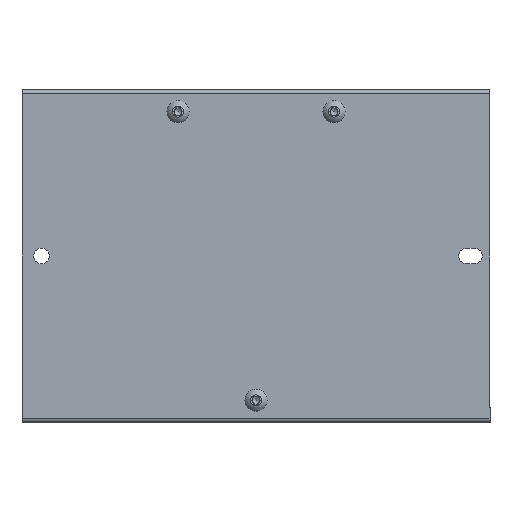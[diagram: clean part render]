
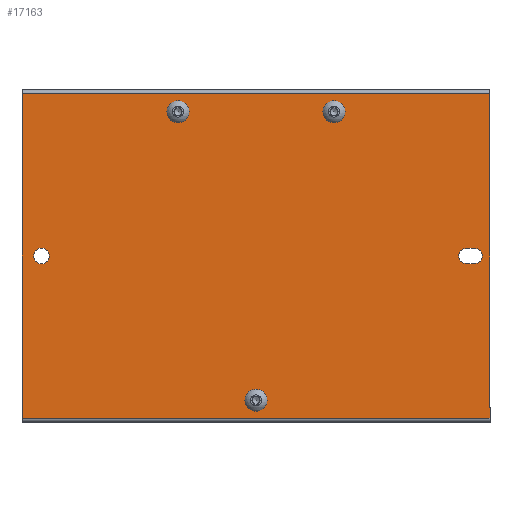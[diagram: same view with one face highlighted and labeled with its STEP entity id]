
A CAD part, front view. The second image highlights one B-rep face of the part: STEP entity #17163.
In plain terms, the highlighted planar face has unit normal (0, -1, 0).
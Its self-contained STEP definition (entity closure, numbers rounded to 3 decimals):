
#263 = VERTEX_POINT ( 'NONE', #1981 ) ;
#1354 = CARTESIAN_POINT ( 'NONE',  ( 360., -6.2, -109.1 ) ) ;
#1368 = CARTESIAN_POINT ( 'NONE',  ( 356., -6.2, -65.5 ) ) ;
#1453 = CARTESIAN_POINT ( 'NONE',  ( 245., -6.2, -67.5 ) ) ;
#1454 = DIRECTION ( 'NONE',  ( 0., 1., 0. ) ) ;
#1455 = DIRECTION ( 'NONE',  ( -1., 0., 0. ) ) ;
#1738 = VERTEX_POINT ( 'NONE', #22492 ) ;
#1948 = EDGE_LOOP ( 'NONE', ( #13069, #13067, #13066, #13063 ) ) ;
#1954 = EDGE_LOOP ( 'NONE', ( #13070 ) ) ;
#1955 = EDGE_LOOP ( 'NONE', ( #13061, #13057, #13055, #13053 ) ) ;
#1956 = EDGE_LOOP ( 'NONE', ( #13051 ) ) ;
#1981 = CARTESIAN_POINT ( 'NONE',  ( 354., -6.2, -69.5 ) ) ;
#2515 = VERTEX_POINT ( 'NONE', #1354 ) ;
#2529 = VERTEX_POINT ( 'NONE', #1368 ) ;
#4218 = AXIS2_PLACEMENT_3D ( 'NONE', #12952, #12953, #12954 ) ;
#4760 = LINE ( 'NONE', #4761, #7758 ) ;
#4761 = CARTESIAN_POINT ( 'NONE',  ( 360., -6.2, -109.1 ) ) ;
#4762 = DIRECTION ( 'NONE',  ( -1., 0., 0. ) ) ;
#4766 = LINE ( 'NONE', #4771, #7769 ) ;
#4770 = CARTESIAN_POINT ( 'NONE',  ( 354., -6.2, -69.5 ) ) ;
#4771 = CARTESIAN_POINT ( 'NONE',  ( 356., -6.2, -65.5 ) ) ;
#4772 = CARTESIAN_POINT ( 'NONE',  ( 320., -6.2, -30.5 ) ) ;
#4773 = DIRECTION ( 'NONE',  ( 0., 1., 0. ) ) ;
#4774 = DIRECTION ( 'NONE',  ( -1., 0., 0. ) ) ;
#4775 = LINE ( 'NONE', #4770, #7759 ) ;
#4776 = CARTESIAN_POINT ( 'NONE',  ( 356., -6.2, -67.5 ) ) ;
#4777 = DIRECTION ( 'NONE',  ( 0., 1., 0. ) ) ;
#4778 = DIRECTION ( 'NONE',  ( -1., 0., 0. ) ) ;
#4779 = DIRECTION ( 'NONE',  ( -1., 0., 0. ) ) ;
#4780 = LINE ( 'NONE', #4789, #7766 ) ;
#4781 = CARTESIAN_POINT ( 'NONE',  ( 354., -6.2, -67.5 ) ) ;
#4782 = DIRECTION ( 'NONE',  ( 0., 1., 0. ) ) ;
#4783 = DIRECTION ( 'NONE',  ( -1., 0., 0. ) ) ;
#4784 = DIRECTION ( 'NONE',  ( 1., 0., 0. ) ) ;
#4785 = LINE ( 'NONE', #4787, #7771 ) ;
#4787 = CARTESIAN_POINT ( 'NONE',  ( 360., -6.2, -25.9 ) ) ;
#4788 = DIRECTION ( 'NONE',  ( -1., 0., 0. ) ) ;
#4789 = CARTESIAN_POINT ( 'NONE',  ( 240., -6.2, -109.1 ) ) ;
#4790 = DIRECTION ( 'NONE',  ( 0., 0., -1. ) ) ;
#4791 = LINE ( 'NONE', #4792, #7773 ) ;
#4792 = CARTESIAN_POINT ( 'NONE',  ( 360., -6.2, -109.1 ) ) ;
#4793 = DIRECTION ( 'NONE',  ( 0., 0., -1. ) ) ;
#4795 = CARTESIAN_POINT ( 'NONE',  ( 280., -6.2, -30.5 ) ) ;
#4796 = DIRECTION ( 'NONE',  ( 0., 1., 0. ) ) ;
#4797 = DIRECTION ( 'NONE',  ( -1., 0., 0. ) ) ;
#4798 = CARTESIAN_POINT ( 'NONE',  ( 300., -6.2, -104.5 ) ) ;
#4799 = DIRECTION ( 'NONE',  ( 0., 1., 0. ) ) ;
#4800 = DIRECTION ( 'NONE',  ( -1., 0., 0. ) ) ;
#5914 = VERTEX_POINT ( 'NONE', #5917 ) ;
#5917 = CARTESIAN_POINT ( 'NONE',  ( 243., -6.2, -67.5 ) ) ;
#5964 = VERTEX_POINT ( 'NONE', #5967 ) ;
#5966 = VERTEX_POINT ( 'NONE', #5969 ) ;
#5967 = CARTESIAN_POINT ( 'NONE',  ( 318.4, -6.2, -30.5 ) ) ;
#5968 = VERTEX_POINT ( 'NONE', #5971 ) ;
#5969 = CARTESIAN_POINT ( 'NONE',  ( 278.4, -6.2, -30.5 ) ) ;
#5971 = CARTESIAN_POINT ( 'NONE',  ( 298.4, -6.2, -104.5 ) ) ;
#7070 = EDGE_CURVE ( 'NONE', #5914, #5914, #15156, .T. ) ;
#7758 = VECTOR ( 'NONE', #4762, 1000. ) ;
#7759 = VECTOR ( 'NONE', #4779, 1000. ) ;
#7762 = CIRCLE ( 'NONE', #7765, 1.6 ) ;
#7764 = AXIS2_PLACEMENT_3D ( 'NONE', #4776, #4777, #4778 ) ;
#7765 = AXIS2_PLACEMENT_3D ( 'NONE', #4772, #4773, #4774 ) ;
#7766 = VECTOR ( 'NONE', #4790, 1000. ) ;
#7767 = CIRCLE ( 'NONE', #7764, 2. ) ;
#7768 = CIRCLE ( 'NONE', #7770, 2. ) ;
#7769 = VECTOR ( 'NONE', #4784, 1000. ) ;
#7770 = AXIS2_PLACEMENT_3D ( 'NONE', #4781, #4782, #4783 ) ;
#7771 = VECTOR ( 'NONE', #4788, 1000. ) ;
#7773 = VECTOR ( 'NONE', #4793, 1000. ) ;
#7774 = CIRCLE ( 'NONE', #7776, 1.6 ) ;
#7775 = AXIS2_PLACEMENT_3D ( 'NONE', #4798, #4799, #4800 ) ;
#7776 = AXIS2_PLACEMENT_3D ( 'NONE', #4795, #4796, #4797 ) ;
#7778 = CIRCLE ( 'NONE', #7775, 1.6 ) ;
#7804 = VERTEX_POINT ( 'NONE', #14212 ) ;
#8869 = CARTESIAN_POINT ( 'NONE',  ( 354., -6.2, -65.5 ) ) ;
#8927 = CARTESIAN_POINT ( 'NONE',  ( 240., -6.2, -109.1 ) ) ;
#8929 = CARTESIAN_POINT ( 'NONE',  ( 360., -6.2, -25.9 ) ) ;
#12922 = FACE_BOUND ( 'NONE', #1948, .T. ) ;
#12936 = FACE_BOUND ( 'NONE', #22591, .T. ) ;
#12937 = FACE_BOUND ( 'NONE', #1954, .T. ) ;
#12938 = FACE_BOUND ( 'NONE', #22592, .T. ) ;
#12939 = PLANE ( 'NONE',  #4218 ) ;
#12940 = FACE_OUTER_BOUND ( 'NONE', #1955, .T. ) ;
#12942 = FACE_BOUND ( 'NONE', #1956, .T. ) ;
#12952 = CARTESIAN_POINT ( 'NONE',  ( 360., -6.2, -109.1 ) ) ;
#12953 = DIRECTION ( 'NONE',  ( 0., 1., 0. ) ) ;
#12954 = DIRECTION ( 'NONE',  ( -1., 0., 0. ) ) ;
#13047 = ORIENTED_EDGE ( 'NONE', *, *, #15355, .T. ) ;
#13049 = ORIENTED_EDGE ( 'NONE', *, *, #15354, .T. ) ;
#13051 = ORIENTED_EDGE ( 'NONE', *, *, #7070, .T. ) ;
#13053 = ORIENTED_EDGE ( 'NONE', *, *, #15353, .F. ) ;
#13055 = ORIENTED_EDGE ( 'NONE', *, *, #15343, .F. ) ;
#13057 = ORIENTED_EDGE ( 'NONE', *, *, #15352, .T. ) ;
#13061 = ORIENTED_EDGE ( 'NONE', *, *, #15351, .T. ) ;
#13063 = ORIENTED_EDGE ( 'NONE', *, *, #15350, .T. ) ;
#13066 = ORIENTED_EDGE ( 'NONE', *, *, #15349, .T. ) ;
#13067 = ORIENTED_EDGE ( 'NONE', *, *, #15348, .T. ) ;
#13069 = ORIENTED_EDGE ( 'NONE', *, *, #15347, .T. ) ;
#13070 = ORIENTED_EDGE ( 'NONE', *, *, #15346, .T. ) ;
#14212 = CARTESIAN_POINT ( 'NONE',  ( 240., -6.2, -25.9 ) ) ;
#15156 = CIRCLE ( 'NONE', #15157, 2. ) ;
#15157 = AXIS2_PLACEMENT_3D ( 'NONE', #1453, #1454, #1455 ) ;
#15343 = EDGE_CURVE ( 'NONE', #2515, #19229, #4760, .T. ) ;
#15346 = EDGE_CURVE ( 'NONE', #5964, #5964, #7762, .T. ) ;
#15347 = EDGE_CURVE ( 'NONE', #2529, #1738, #7767, .T. ) ;
#15348 = EDGE_CURVE ( 'NONE', #1738, #263, #4775, .T. ) ;
#15349 = EDGE_CURVE ( 'NONE', #263, #19171, #7768, .T. ) ;
#15350 = EDGE_CURVE ( 'NONE', #19171, #2529, #4766, .T. ) ;
#15351 = EDGE_CURVE ( 'NONE', #19231, #7804, #4785, .T. ) ;
#15352 = EDGE_CURVE ( 'NONE', #7804, #19229, #4780, .T. ) ;
#15353 = EDGE_CURVE ( 'NONE', #19231, #2515, #4791, .T. ) ;
#15354 = EDGE_CURVE ( 'NONE', #5966, #5966, #7774, .T. ) ;
#15355 = EDGE_CURVE ( 'NONE', #5968, #5968, #7778, .T. ) ;
#17163 = ADVANCED_FACE ( 'NONE', ( #12937, #12922, #12940, #12942, #12936, #12938 ), #12939, .F. ) ;
#19171 = VERTEX_POINT ( 'NONE', #8869 ) ;
#19229 = VERTEX_POINT ( 'NONE', #8927 ) ;
#19231 = VERTEX_POINT ( 'NONE', #8929 ) ;
#22492 = CARTESIAN_POINT ( 'NONE',  ( 356., -6.2, -69.5 ) ) ;
#22591 = EDGE_LOOP ( 'NONE', ( #13049 ) ) ;
#22592 = EDGE_LOOP ( 'NONE', ( #13047 ) ) ;
